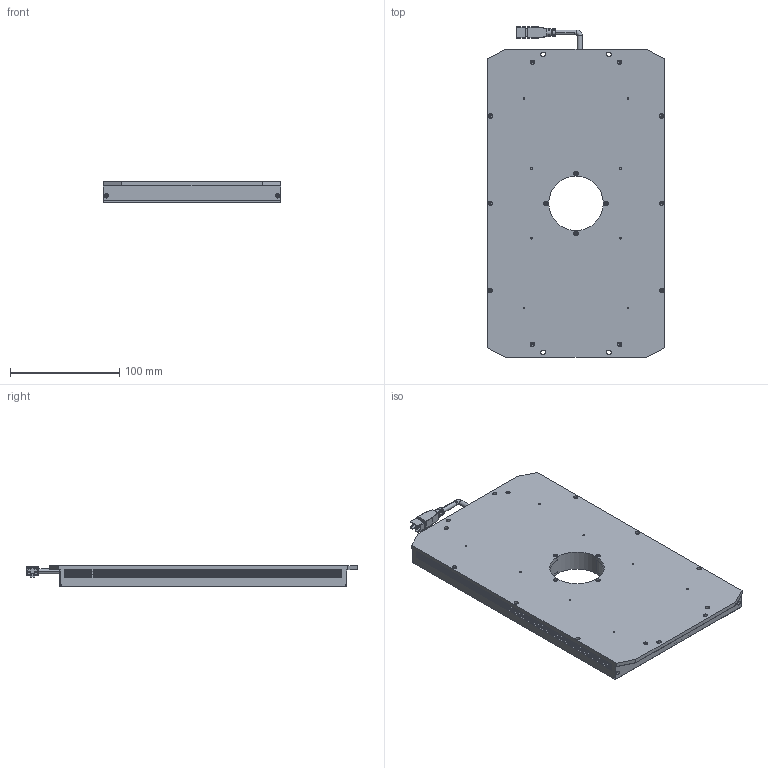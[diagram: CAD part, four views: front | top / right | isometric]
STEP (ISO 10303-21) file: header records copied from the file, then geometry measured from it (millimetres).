
FILE_DESCRIPTION((''),'2;1');
FILE_NAME('LS-LBES-H-250-150-X2','2022-11-04T11:53:11',('LumaSpec Vision'),('LumaSpec Vision'),'CREO PARAMETRIC BY PTC INC, 2020044','CREO PARAMETRIC BY PTC INC, 2020044','');
FILE_SCHEMA(('AUTOMOTIVE_DESIGN { 1 0 10303 214 1 1 1 1 }'));
Length unit declared in the file: millimetre
Products named in the file (1): PRT0001
Bounding box: 163 x 302.75 x 19 mm (x, y, z)
Volume: 788412.8 mm3; surface area: 114087 mm2
Topology: 1 solids, 52 shells, 1853 faces, 4343 edges, 2631 vertices
Faces by surface type: plane 1116, cylinder 487, cone 159, torus 75, sphere 8, bspline 8
Entity records: 53721 total; most frequent: CARTESIAN_POINT 10439, DIRECTION 8897, ORIENTED_EDGE 8654, EDGE_CURVE 4327, AXIS2_PLACEMENT_3D 3050, VECTOR 2797, LINE 2797, VERTEX_POINT 2631
